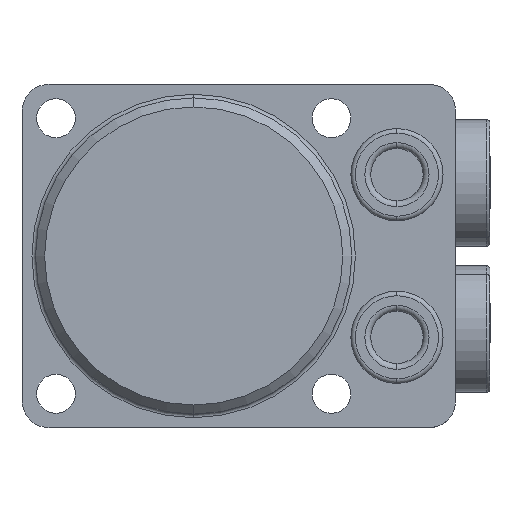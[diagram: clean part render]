
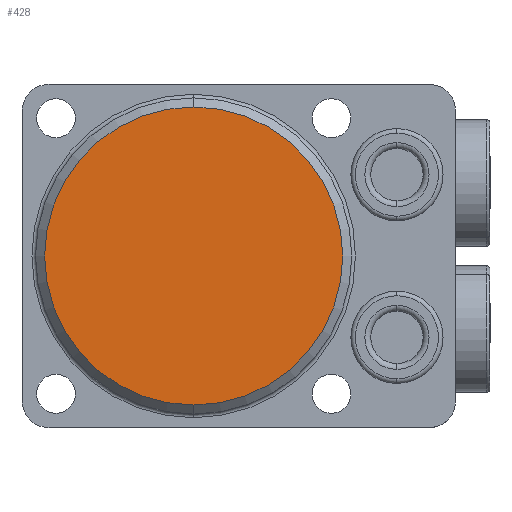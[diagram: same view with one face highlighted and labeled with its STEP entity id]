
A CAD part, front view. The second image highlights one B-rep face of the part: STEP entity #428.
In plain terms, the highlighted planar face has unit normal (0, -1, 0).
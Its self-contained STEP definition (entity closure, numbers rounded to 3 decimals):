
#209=PLANE('',#2736);
#428=ADVANCED_FACE('',(#589),#209,.F.);
#589=FACE_OUTER_BOUND('',#746,.T.);
#746=EDGE_LOOP('',(#1552,#1553));
#1552=ORIENTED_EDGE('',*,*,#2280,.T.);
#1553=ORIENTED_EDGE('',*,*,#2222,.T.);
#1938=VERTEX_POINT('',#4316);
#1939=VERTEX_POINT('',#4317);
#2222=EDGE_CURVE('',#1938,#1939,#2447,.T.);
#2280=EDGE_CURVE('',#1939,#1938,#2469,.T.);
#2447=CIRCLE('',#2700,16.5);
#2469=CIRCLE('',#2735,16.5);
#2700=AXIS2_PLACEMENT_3D('',#4315,#3320,#3321);
#2735=AXIS2_PLACEMENT_3D('',#4449,#3421,#3422);
#2736=AXIS2_PLACEMENT_3D('',#4450,#3423,#3424);
#3320=DIRECTION('',(0.,-1.,0.));
#3321=DIRECTION('',(0.,0.,1.));
#3421=DIRECTION('',(0.,-1.,0.));
#3422=DIRECTION('',(0.,0.,1.));
#3423=DIRECTION('',(0.,1.,0.));
#3424=DIRECTION('',(0.,0.,1.));
#4315=CARTESIAN_POINT('',(0.,0.,0.));
#4316=CARTESIAN_POINT('',(0.,0.,-16.5));
#4317=CARTESIAN_POINT('',(0.,0.,16.5));
#4449=CARTESIAN_POINT('',(0.,0.,0.));
#4450=CARTESIAN_POINT('',(-19.,0.,19.));
